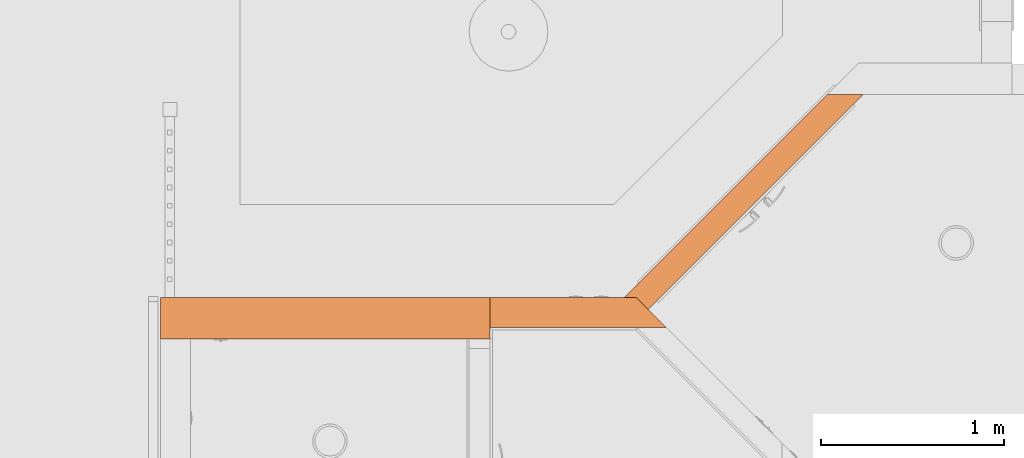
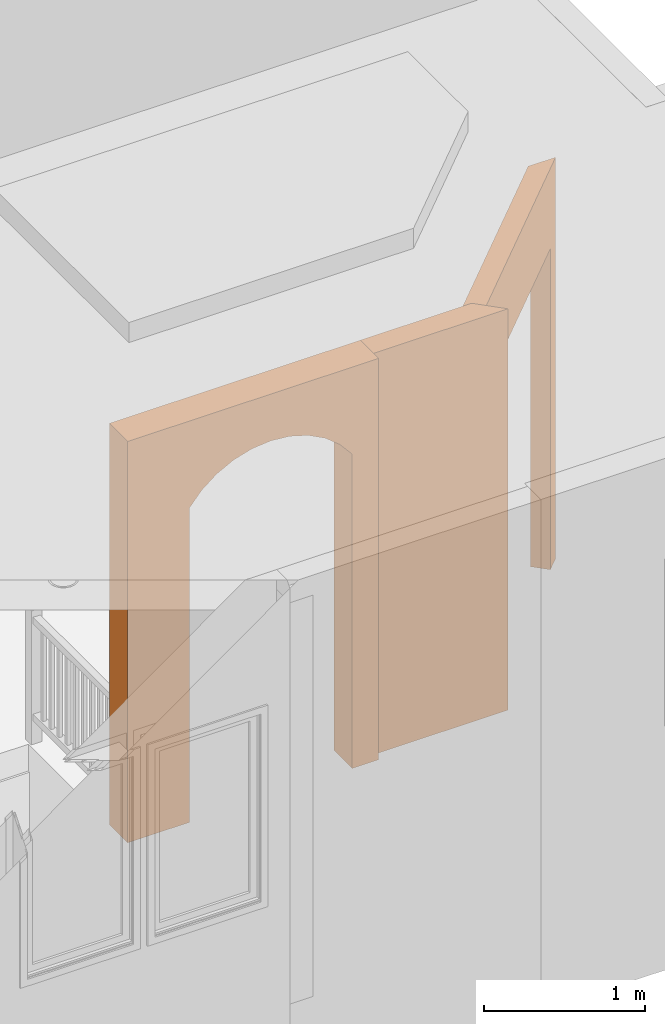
# One storey, part 82 of 103: 3 proxies.
"""IFC2X3 building model written with IfcOpenShell, lengths in inches."""

from ifc_helpers import new_model, entity, si_unit, converted_unit, derived_unit, money_unit, direction, frame, origin_with_axes, place, context, subcontext, project, spatial, faceted_brep, material, type_object, element, save


model = new_model("IFC2X3")

# Units and contexts
model_context = context("Model", 3, precision=0.00039370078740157, world=origin_with_axes(), true_north=direction((0.0, 1.0)))
plan_context = context("Plan", 3, precision=0.00039370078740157, world=origin_with_axes(), true_north=direction((0.0, 1.0)))
body_context = subcontext(model_context, "Body", "Model", "MODEL_VIEW")
ifc_project = project(units=[converted_unit("LENGTHUNIT", "INCH", entity("IfcPositiveLengthMeasure", 0.0254), si_unit("LENGTHUNIT", "METRE"), dimensions=[1, 0, 0, 0, 0, 0, 0]), converted_unit("AREAUNIT", "SQUARE_FOOT", entity("IfcPositiveLengthMeasure", 0.09290304), si_unit("AREAUNIT", "SQUARE_METRE"), dimensions=[2, 0, 0, 0, 0, 0, 0]), si_unit("PLANEANGLEUNIT", "RADIAN"), si_unit("SOLIDANGLEUNIT", "STERADIAN"), money_unit("USD"), converted_unit("TIMEUNIT", "Year", entity("IfcTimeMeasure", 31557600.0), si_unit("TIMEUNIT", "SECOND"), dimensions=[0, 0, 1, 0, 0, 0, 0]), si_unit("MASSUNIT", "GRAM", prefix="KILO"), si_unit("THERMODYNAMICTEMPERATUREUNIT", "DEGREE_CELSIUS"), si_unit("LUMINOUSINTENSITYUNIT", "LUMEN"), si_unit("ENERGYUNIT", "JOULE", prefix="MEGA"), derived_unit("SPECIFICHEATCAPACITYUNIT", [(si_unit("ENERGYUNIT", "JOULE"), 1), (si_unit("MASSUNIT", "GRAM", prefix="KILO"), -1), (si_unit("THERMODYNAMICTEMPERATUREUNIT", "KELVIN"), -1)])], contexts=[model_context, plan_context])

# Site, building, storey
site_placement = place(None, origin_with_axes())
site = spatial("IfcSite", under=ifc_project, at=site_placement, Name="Site", CompositionType="ELEMENT")
building_placement = place(site_placement, origin_with_axes())
building = spatial("IfcBuilding", under=site, at=building_placement, Name="Building", CompositionType="ELEMENT")
storey_placement = place(building_placement, frame((0.0, 0.0, 127.9999999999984), z_axis=(0.0, 0.0, 1.0), x_axis=(1.0, 0.0, 0.0)))
storey = spatial("IfcBuildingStorey", under=building, at=storey_placement, Name="Second Floor", CompositionType="ELEMENT", Elevation=128.0)

# Proxies
ifc_material = material(Name="Generic - Structural")
building_element_proxy_type_1 = type_object("IfcBuildingElementProxyType", Name="Generic - Structural 6 1/2\"", PredefinedType="NOTDEFINED")
proxy_1_placement = place(storey_placement, frame((315.499999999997, 88.49999999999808, 0.0), z_axis=(0.0, 0.0, 1.0), x_axis=(1.0, 0.0, 0.0)))
element("IfcBuildingElementProxy", 1, at=proxy_1_placement, inside=storey, type_object=building_element_proxy_type_1, material=ifc_material, Name="SW - 086", context=body_context, shape_type="Brep", body=[
    faceted_brep([(0.0, -6.499999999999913, 0.0), (0.0, 0.0, 0.0), (31.49999999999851, 0.0, 0.0), (37.99999999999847, -6.499999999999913, 0.0), (0.0, -6.499999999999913, 119.9999999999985), (0.0, 0.0, 119.9999999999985), (31.49999999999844, 0.0, 119.9999999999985), (37.99999999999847, -6.499999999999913, 119.9999999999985)], [[[0, 1, 2, 3]], [[4, 5, 1, 0]], [[1, 5, 6, 2]], [[7, 3, 2, 6]], [[4, 0, 3, 7]], [[5, 4, 7, 6]]]),
])
building_element_proxy_type_2 = type_object("IfcBuildingElementProxyType", Name="Generic - Structural 5 1/2\"", PredefinedType="NOTDEFINED")
proxy_2_placement = place(storey_placement, frame((345.7499999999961, 81.99999999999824, 0.0), z_axis=(0.0, 0.0, 1.0), x_axis=(0.7071067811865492, 0.7071067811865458, 0.0)))
element("IfcBuildingElementProxy", 2, at=proxy_2_placement, inside=storey, type_object=building_element_proxy_type_2, material=ifc_material, Name="SW - 079", context=body_context, shape_type="Brep", body=[
    faceted_brep([(3.692388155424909, 5.499999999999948, 119.9999999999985), (5.480077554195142, 3.71231060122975, 119.9999999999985), (5.480077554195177, 0.0, 119.9999999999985), (71.0642315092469, 0.0, 119.9999999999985), (65.56423150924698, 5.499999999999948, 119.9999999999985), (3.692388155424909, 5.499999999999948, 0.0), (5.480077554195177, 3.712310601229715, 0.0), (5.480077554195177, 0.0, 0.0), (10.06423150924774, 0.0, 0.0), (10.06423150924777, 0.0, 95.9999999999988), (66.064231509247, 0.0, 95.9999999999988), (66.064231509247, 0.0, 0.0), (71.0642315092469, 0.0, 0.0), (66.06423150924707, 4.999999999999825, 0.0), (66.06423150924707, 4.999999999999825, 95.9999999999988), (65.56423150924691, 5.499999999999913, 95.9999999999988), (10.06423150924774, 5.499999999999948, 95.9999999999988), (10.06423150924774, 5.499999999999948, 0.0)], [[[0, 1, 2, 3, 4]], [[1, 0, 5, 6]], [[7, 2, 1, 6]], [[2, 7, 8, 9, 10, 11, 12, 3]], [[13, 14, 15, 4, 3, 12]], [[5, 0, 4, 15, 16, 17]], [[6, 5, 17, 8, 7]], [[16, 9, 8, 17]], [[14, 10, 9, 16, 15]], [[13, 11, 10, 14]], [[12, 11, 13]]]),
])
building_element_proxy_type_3 = type_object("IfcBuildingElementProxyType", Name="Generic - Structural 9\"", PredefinedType="NOTDEFINED")
proxy_3_placement = place(storey_placement, frame((244.4999999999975, 88.49999999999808, 0.0), z_axis=(0.0, 0.0, 1.0), x_axis=(1.0, 0.0, 0.0)))
element("IfcBuildingElementProxy", 3, at=proxy_3_placement, inside=storey, type_object=building_element_proxy_type_3, material=ifc_material, Name="SW - 086", context=body_context, shape_type="Brep", body=[
    faceted_brep([(17.49999999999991, 0.0, 93.99999999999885), (17.49999999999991, 0.0, 0.0), (0.0, 0.0, 0.0), (0.0, 0.0, 119.9999999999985), (70.99999999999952, 0.0, 119.9999999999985), (70.99999999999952, 0.0, 0.0), (63.49999999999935, 0.0, 0.0), (63.49999999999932, 0.0, 93.99999999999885), (60.00910573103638, 0.0, 98.10107056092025), (55.79858947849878, 0.0, 101.4591467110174), (51.02376231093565, 0.0, 103.9503608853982), (45.86075073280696, 0.0, 105.482820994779), (40.49999999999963, 0.0, 105.9999999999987), (35.13924926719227, 0.0, 105.482820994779), (29.97623768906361, 0.0, 103.9503608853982), (25.20141052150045, 0.0, 101.4591467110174), (20.99089426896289, 0.0, 98.10107056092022), (17.49999999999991, -8.999999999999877, 93.99999999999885), (17.49999999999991, -8.999999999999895, 0.0), (0.0, -8.999999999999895, 0.0), (0.0, -8.999999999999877, 119.9999999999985), (70.99999999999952, -8.999999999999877, 119.9999999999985), (70.99999999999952, -8.999999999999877, 0.0), (63.49999999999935, -8.999999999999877, 0.0), (63.49999999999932, -8.999999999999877, 93.99999999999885), (60.00910573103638, -8.999999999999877, 98.10107056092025), (55.79858947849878, -8.999999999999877, 101.4591467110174), (51.02376231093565, -8.999999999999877, 103.9503608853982), (45.86075073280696, -8.999999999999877, 105.482820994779), (40.49999999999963, -8.999999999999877, 105.9999999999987), (35.13924926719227, -8.999999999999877, 105.482820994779), (29.97623768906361, -8.999999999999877, 103.9503608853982), (25.20141052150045, -8.999999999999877, 101.4591467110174), (20.99089426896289, -8.999999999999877, 98.10107056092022)], [[[0, 1, 2, 3, 4, 5, 6, 7, 8, 9, 10, 11, 12, 13, 14, 15, 16]], [[1, 0, 17, 18]], [[1, 18, 19, 2]], [[2, 19, 20, 3]], [[3, 20, 21, 4]], [[21, 22, 5, 4]], [[23, 6, 5, 22]], [[7, 6, 23, 24]], [[8, 7, 24, 25]], [[9, 8, 25, 26]], [[10, 9, 26, 27]], [[11, 10, 27, 28]], [[12, 11, 28, 29]], [[13, 12, 29, 30]], [[14, 13, 30, 31]], [[15, 14, 31, 32]], [[16, 15, 32, 33]], [[0, 16, 33, 17]], [[24, 23, 22, 21, 20, 19, 18, 17, 33, 32, 31, 30, 29, 28, 27, 26, 25]]]),
])

save(model, "model.ifc")
